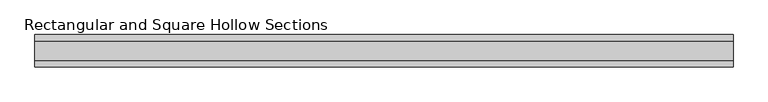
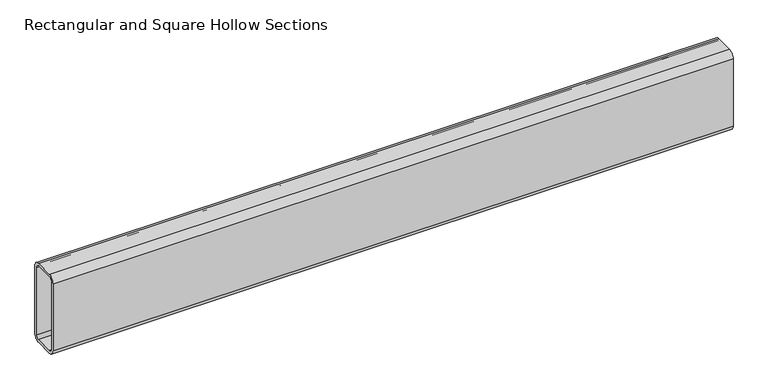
"""IFC4 building model written with IfcOpenShell, lengths in millimetres: beam geometry, Rectangular and Square Hollow Sections : TREC160x60x6."""

from ifc_helpers import new_model, si_unit, point, frame, frame_2d, origin, place, context, project, spatial, polyline, circle_curve, trimmed, segment, composite_curve, outline, extrude, source, transform, mapped, element, save


def rectangular_and_square_hollow_sections_82249186(model_context):
    return source(origin(), model_context, "Body", "SweptSolid", [
        extrude(outline(composite_curve([segment(polyline([(30.0, 68.0), (30.0, -68.0)]), True, "CONTINUOUS"), segment(trimmed(circle_curve(frame_2d((18.0, -68.0)), 12.0), [point((30.0, -68.0))], [point((18.0, -80.0))], False, "CARTESIAN"), True, "CONTINUOUS"), segment(polyline([(18.0, -80.0), (-18.0, -80.0)]), True, "CONTINUOUS"), segment(trimmed(circle_curve(frame_2d((-18.0, -68.0)), 12.0), [point((-18.0, -80.0))], [point((-30.0, -68.0))], False, "CARTESIAN"), True, "CONTINUOUS"), segment(polyline([(-30.0, -68.0), (-30.0, 68.0)]), True, "CONTINUOUS"), segment(trimmed(circle_curve(frame_2d((-18.0, 68.0)), 12.0), [point((-30.0, 68.0))], [point((-18.0, 80.0))], False, "CARTESIAN"), True, "CONTINUOUS"), segment(polyline([(-18.0, 80.0), (18.0, 80.0)]), True, "CONTINUOUS"), segment(trimmed(circle_curve(frame_2d((18.0, 68.0)), 12.0), [point((18.0, 80.0))], [point((30.0, 68.0))], False, "CARTESIAN"), True, "CONTINUOUS")], self_intersect=False), holes=[composite_curve([segment(trimmed(circle_curve(frame_2d((-18.0, 68.0)), 6.0), [point((-18.0, 74.0))], [point((-24.0, 68.0))], True, "CARTESIAN"), True, "CONTINUOUS"), segment(polyline([(-24.0, 68.0), (-24.0, -68.0)]), True, "CONTINUOUS"), segment(trimmed(circle_curve(frame_2d((-18.0, -68.0)), 6.0), [point((-24.0, -68.0))], [point((-18.0, -74.0))], True, "CARTESIAN"), True, "CONTINUOUS"), segment(polyline([(-18.0, -74.0), (18.0, -74.0)]), True, "CONTINUOUS"), segment(trimmed(circle_curve(frame_2d((18.0, -68.0)), 6.0), [point((18.0, -74.0))], [point((24.0, -68.0))], True, "CARTESIAN"), True, "CONTINUOUS"), segment(polyline([(24.0, -68.0), (24.0, 68.0)]), True, "CONTINUOUS"), segment(trimmed(circle_curve(frame_2d((18.0, 68.0)), 6.0), [point((24.0, 68.0))], [point((18.0, 74.0))], True, "CARTESIAN"), True, "CONTINUOUS"), segment(polyline([(18.0, 74.0), (-18.0, 74.0)]), True, "CONTINUOUS")], self_intersect=False)]), frame((-627.0, 0.0, 0.0), z_axis=(1.0, 0.0, 0.0), x_axis=(0.0, 1.0, 0.0)), (0.0, 0.0, 1.0), 1300.0),
    ])


if __name__ == "__main__":
    model = new_model("IFC4")
    model_context = context("Model", 3, world=origin())
    ifc_project = project(units=[si_unit("LENGTHUNIT", "METRE", prefix="MILLI")], contexts=[model_context])
    site = spatial("IfcSite", under=ifc_project)
    building = spatial("IfcBuilding", under=site)
    placement = place(None, origin())
    rectangular_and_square_hollow_sections_shape = rectangular_and_square_hollow_sections_82249186(model_context)
    element("IfcBeam", 1, ObjectType="Rectangular and Square Hollow Sections : TREC160x60x6", at=placement, inside=building, context=model_context, shape_type="MappedRepresentation", body=[
        mapped(rectangular_and_square_hollow_sections_shape, transform((0.0, 0.0, 0.0), x_axis=(1.0, 0.0, 0.0), y_axis=(0.0, 1.0, 0.0), z_axis=(0.0, 0.0, 1.0))),
    ])
    save(model, "model.ifc")
